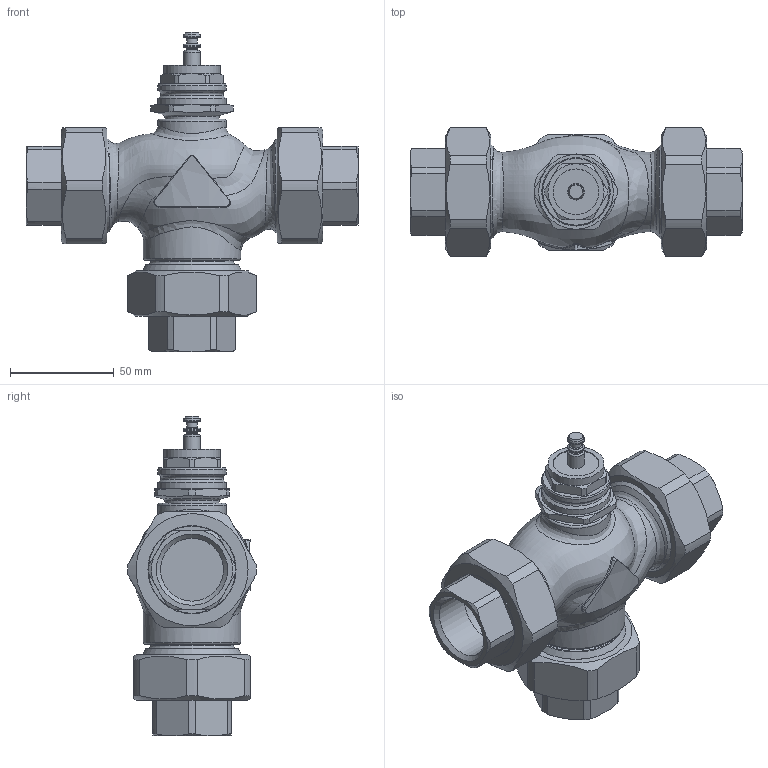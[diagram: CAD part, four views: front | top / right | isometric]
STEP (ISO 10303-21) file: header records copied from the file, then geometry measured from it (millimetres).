
FILE_DESCRIPTION(/* description */ (''),/* implementation_level */ '2;1');
FILE_NAME(/* name */ 'rv111s_dn25_3_T.stp',/* time_stamp */ '2012-02-27T14:58:08+01:00',/* author */ ('KLIMES'),/* organization */ ('LDM'),/* preprocessor_version */ 'ST-DEVELOPER v11',/* originating_system */ 'SIEMENS PLM Software NX 7.0',/* authorisation */ '');
FILE_SCHEMA (('CONFIG_CONTROL_DESIGN'));
Length unit declared in the file: millimetre
Products named in the file (1): klimEE991wfz
Bounding box: 160 x 61.98 x 153.9 mm (x, y, z)
Volume: 388014.4 mm3; surface area: 90769.1 mm2
Topology: 13 solids, 13 shells, 285 faces, 676 edges, 439 vertices
Faces by surface type: plane 117, cylinder 80, cone 55, bspline 20, torus 13
Full cylindrical faces by diameter (mm): 5.3 x1, 5.5 x1, 8 x3, 22 x1, 26.5 x1, 27 x1, 30.291 x3, 33 x12, 40 x1, 42 x3, 42.5 x3, 44 x6, 44.5 x3, 44.845 x3, 47 x1, 47.8 x2, 47.803 x1
Entity records: 13299 total; most frequent: CARTESIAN_POINT 7356, DIRECTION 1188, ORIENTED_EDGE 1094, EDGE_CURVE 547, AXIS2_PLACEMENT_3D 522, EDGE_LOOP 418, VERTEX_POINT 397, ADVANCED_FACE 285
